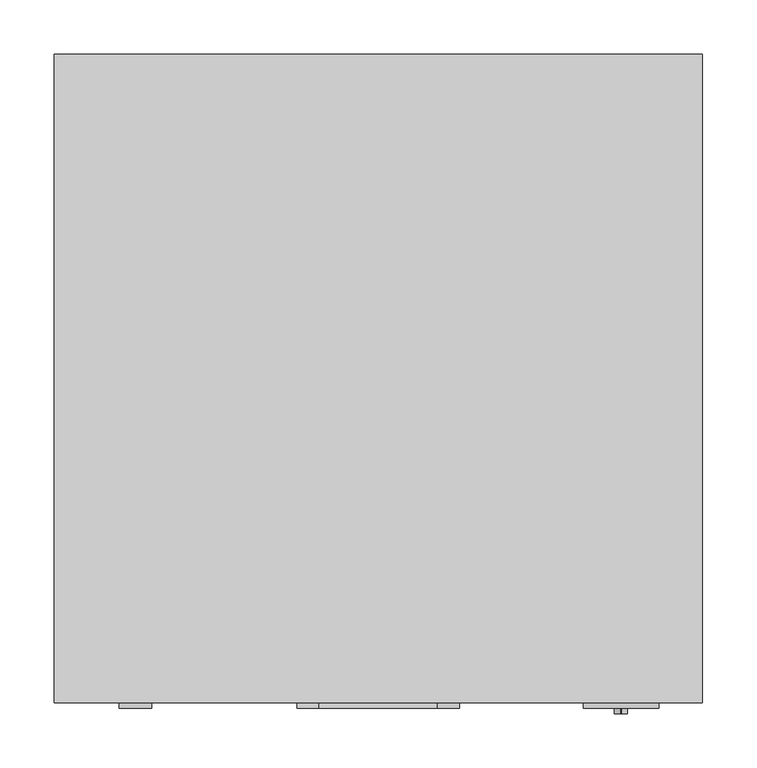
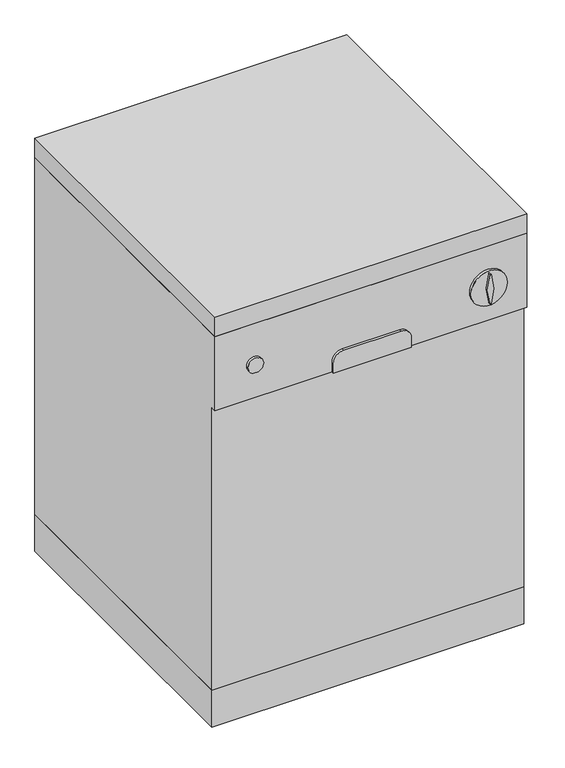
"""IFC4 building model written with IfcOpenShell, lengths in millimetres: proxy geometry, BIMHealth-Dishwasher-LOD2A-v1 : BIMHealth-Dishwasher-LOD2A-v1."""

from ifc_helpers import new_model, si_unit, point, frame, frame_2d, origin, origin_with_axes, place, context, project, spatial, polyline, circle_curve, trimmed, segment, composite_curve, outline, extrude, source, transform, mapped, element, save


def generic_models_a45729b0(model_context):
    return source(origin(), model_context, "Body", "SweptSolid", [
        extrude(outline(composite_curve([segment(polyline([(718.9439509, 518.4682088), (688.8074411, 523.7699344)]), True, "CONTINUOUS"), segment(trimmed(circle_curve(frame_2d((688.9439509, 524.545895)), 0.7878768), [point((688.8074411, 523.7699344))], [point((688.8074411, 525.3218556))], False, "CARTESIAN"), True, "CONTINUOUS"), segment(polyline([(688.8074411, 525.3218556), (718.9439509, 530.6235812), (749.0804608, 525.3218556)]), True, "CONTINUOUS"), segment(trimmed(circle_curve(frame_2d((748.9439509, 524.545895)), 0.7878768), [point((749.0804608, 525.3218556))], [point((749.0804608, 523.7699344))], False, "CARTESIAN"), True, "CONTINUOUS"), segment(polyline([(749.0804608, 523.7699344), (718.9439509, 518.4682088)]), True, "CONTINUOUS")], self_intersect=False)), frame((0.0, -610.0, 0.0), z_axis=(0.0, 1.0, 0.0), x_axis=(0.0, 0.0, 1.0)), (0.0, 0.0, 1.0), 5.0),
        extrude(outline(composite_curve([segment(polyline([(650.0, 375.0), (670.0, 375.0)]), True, "CONTINUOUS"), segment(trimmed(circle_curve(frame_2d((670.0, 355.0)), 20.0), [point((670.0, 375.0))], [point((690.0, 355.0))], False, "CARTESIAN"), True, "CONTINUOUS"), segment(polyline([(690.0, 355.0), (690.0, 245.0)]), True, "CONTINUOUS"), segment(trimmed(circle_curve(frame_2d((670.0, 245.0)), 20.0), [point((690.0, 245.0))], [point((670.0, 225.0))], False, "CARTESIAN"), True, "CONTINUOUS"), segment(polyline([(670.0, 225.0), (650.0, 225.0), (650.0, 375.0)]), True, "CONTINUOUS")], self_intersect=False)), frame((0.0, -605.0, 0.0), z_axis=(0.0, 1.0, 0.0), x_axis=(0.0, 0.0, 1.0)), (0.0, 0.0, 1.0), 5.0),
        extrude(outline(composite_curve([segment(trimmed(circle_curve(frame_2d((718.4122223, 75.454105)), 15.0), [point((718.4122223, 90.454105))], [point((718.4122223, 60.454105))], False, "CARTESIAN"), True, "CONTINUOUS"), segment(trimmed(circle_curve(frame_2d((718.4122223, 75.454105)), 15.0), [point((718.4122223, 60.454105))], [point((718.4122223, 90.454105))], False, "CARTESIAN"), True, "CONTINUOUS")], self_intersect=False)), frame((0.0, -605.0, 0.0), z_axis=(0.0, 1.0, 0.0), x_axis=(0.0, 0.0, 1.0)), (0.0, 0.0, 1.0), 5.0),
        extrude(outline(composite_curve([segment(trimmed(circle_curve(frame_2d((718.4122223, 524.545895)), 35.0), [point((718.4122223, 489.545895))], [point((718.4122223, 559.545895))], False, "CARTESIAN"), True, "CONTINUOUS"), segment(trimmed(circle_curve(frame_2d((718.4122223, 524.545895)), 35.0), [point((718.4122223, 559.545895))], [point((718.4122223, 489.545895))], False, "CARTESIAN"), True, "CONTINUOUS")], self_intersect=False)), frame((0.0, -605.0, 0.0), z_axis=(0.0, 1.0, 0.0), x_axis=(0.0, 0.0, 1.0)), (0.0, 0.0, 1.0), 5.0),
        extrude(outline(polyline([(0.0, 75.0), (-590.0, 75.0), (-590.0, 650.0), (-600.0, 650.0), (-600.0, 800.0), (0.0, 800.0), (0.0, 75.0)])), frame((0.0, 0.0, 0.0), z_axis=(1.0, 0.0, 0.0), x_axis=(0.0, 1.0, 0.0)), (0.0, 0.0, 1.0), 600.0),
        extrude(outline(polyline([(600.0, 0.0), (600.0, -600.0), (0.0, -600.0), (0.0, 0.0), (600.0, 0.0)])), frame((0.0, 0.0, 800.0), z_axis=(0.0, 0.0, 1.0), x_axis=(1.0, 0.0, 0.0)), (0.0, 0.0, 1.0), 40.0),
        extrude(outline(polyline([(600.0, 0.0), (600.0, -590.0), (0.0, -590.0), (0.0, 0.0), (600.0, 0.0)])), origin_with_axes(), (0.0, 0.0, 1.0), 75.0),
    ])


if __name__ == "__main__":
    model = new_model("IFC4")
    model_context = context("Model", 3, world=origin())
    ifc_project = project(units=[si_unit("LENGTHUNIT", "METRE", prefix="MILLI")], contexts=[model_context])
    site = spatial("IfcSite", under=ifc_project)
    building = spatial("IfcBuilding", under=site)
    placement = place(None, origin())
    generic_models_shape = generic_models_a45729b0(model_context)
    element("IfcBuildingElementProxy", 1, Name="BIMHealth-Dishwasher-LOD2A-v1 : BIMHealth-Dishwasher-LOD2A-v1", ObjectType="BIMHealth-Dishwasher-LOD2A-v1 : BIMHealth-Dishwasher-LOD2A-v1", at=placement, inside=building, context=model_context, shape_type="MappedRepresentation", body=[
        mapped(generic_models_shape, transform((0.0, 0.0, 0.0), x_axis=(1.0, 0.0, 0.0), y_axis=(0.0, 1.0, 0.0), z_axis=(0.0, 0.0, 1.0))),
    ])
    save(model, "model.ifc")
